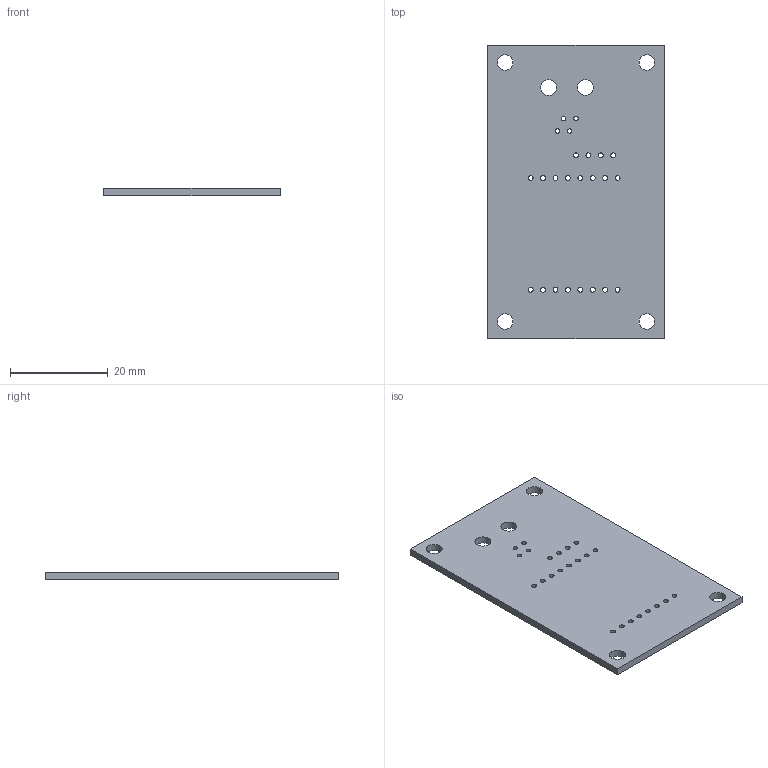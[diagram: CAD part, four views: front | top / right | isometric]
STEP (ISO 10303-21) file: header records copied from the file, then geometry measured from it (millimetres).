
FILE_DESCRIPTION(('KiCad electronic assembly'),'2;1');
FILE_NAME('WaterPressureSensor-carrier-only.step','2026-10-17T19:16:23', ('Pcbnew'),('Kicad'),'Open CASCADE STEP processor 7.9', 'KiCad to STEP converter','Unknown');
FILE_SCHEMA(('AUTOMOTIVE_DESIGN { 1 0 10303 214 1 1 1 1 }'));
Length unit declared in the file: millimetre
Products named in the file (2): WaterPressureSensor-carrier-only 1; WaterPressureSensor_PCB
Assembly tree (1 placements, depth 2):
  WaterPressureSensor-carrier-only 1
    WaterPressureSensor_PCB
Bounding box: 36 x 60 x 1.51 mm (x, y, z)
Volume: 3160.8 mm3; surface area: 4679.7 mm2
Topology: 1 solids, 1 shells, 36 faces, 102 edges, 68 vertices
Faces by surface type: cylinder 30, plane 6
Full cylindrical faces by diameter (mm): 0.9 x4, 1 x20, 3.2 x5, 3.25 x1
Entity records: 1363 total; most frequent: DIRECTION 238, CARTESIAN_POINT 208, ORIENTED_EDGE 204, EDGE_CURVE 102, AXIS2_PLACEMENT_3D 98, FACE_BOUND 96, EDGE_LOOP 96, VERTEX_POINT 68
